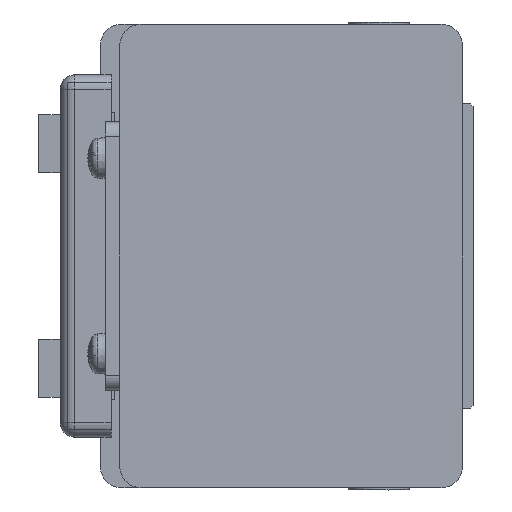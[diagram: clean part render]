
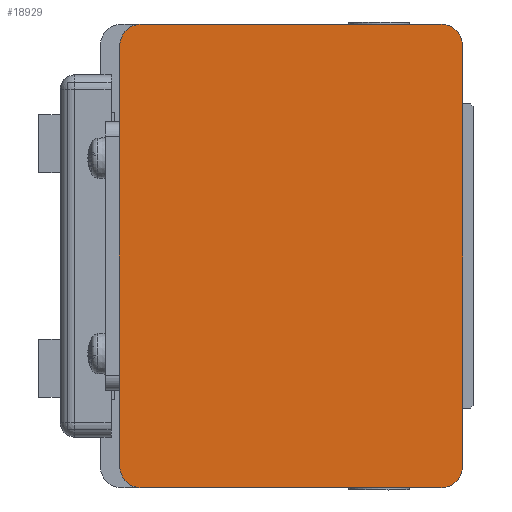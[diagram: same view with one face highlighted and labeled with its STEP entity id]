
A CAD part, left-side view. The second image highlights one B-rep face of the part: STEP entity #18929.
In plain terms, the highlighted planar face has unit normal (-1, 0, 0) as drawn and (0, 0, -1) by its records, which use the part's own axes.
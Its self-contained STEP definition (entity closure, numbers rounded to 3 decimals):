
#779=LINE('',#26723,#2431);
#794=LINE('',#26765,#2446);
#839=LINE('',#26874,#2491);
#861=LINE('',#26943,#2513);
#874=LINE('',#26978,#2526);
#875=LINE('',#26981,#2527);
#876=LINE('',#26982,#2528);
#877=LINE('',#26987,#2529);
#2431=VECTOR('',#21837,19.);
#2446=VECTOR('',#21870,41.3);
#2491=VECTOR('',#21959,41.3);
#2513=VECTOR('',#22019,19.);
#2526=VECTOR('',#22054,0.1);
#2527=VECTOR('',#22057,20.);
#2528=VECTOR('',#22058,0.1);
#2529=VECTOR('',#22063,58.);
#4234=PLANE('',#20159);
#5046=FACE_OUTER_BOUND('',#6156,.T.);
#6156=EDGE_LOOP('',(#12722,#12723,#12724,#12725,#12726,#12727,#12728,#12729,
#12730,#12731,#12732,#12733));
#7398=CIRCLE('',#20160,3.);
#7399=CIRCLE('',#20161,3.);
#7400=CIRCLE('',#20162,3.);
#7401=CIRCLE('',#20163,3.);
#7947=VERTEX_POINT('',#26720);
#7948=VERTEX_POINT('',#26722);
#7965=VERTEX_POINT('',#26762);
#7966=VERTEX_POINT('',#26764);
#8007=VERTEX_POINT('',#26871);
#8008=VERTEX_POINT('',#26873);
#8035=VERTEX_POINT('',#26940);
#8036=VERTEX_POINT('',#26942);
#8047=VERTEX_POINT('',#26976);
#8048=VERTEX_POINT('',#26980);
#8049=VERTEX_POINT('',#26984);
#8050=VERTEX_POINT('',#26986);
#9800=EDGE_CURVE('',#7948,#7947,#779,.T.);
#9821=EDGE_CURVE('',#7966,#7965,#794,.T.);
#9876=EDGE_CURVE('',#8008,#8007,#839,.T.);
#9910=EDGE_CURVE('',#8036,#8035,#861,.T.);
#9929=EDGE_CURVE('',#8047,#7947,#874,.T.);
#9930=EDGE_CURVE('',#8048,#8047,#875,.T.);
#9931=EDGE_CURVE('',#8036,#8048,#876,.T.);
#9932=EDGE_CURVE('',#8035,#8008,#7398,.T.);
#9933=EDGE_CURVE('',#8007,#8049,#7399,.T.);
#9934=EDGE_CURVE('',#8049,#8050,#877,.T.);
#9935=EDGE_CURVE('',#8050,#7966,#7400,.T.);
#9936=EDGE_CURVE('',#7965,#7948,#7401,.T.);
#12722=ORIENTED_EDGE('',*,*,#9800,.T.);
#12723=ORIENTED_EDGE('',*,*,#9929,.F.);
#12724=ORIENTED_EDGE('',*,*,#9930,.F.);
#12725=ORIENTED_EDGE('',*,*,#9931,.F.);
#12726=ORIENTED_EDGE('',*,*,#9910,.T.);
#12727=ORIENTED_EDGE('',*,*,#9932,.T.);
#12728=ORIENTED_EDGE('',*,*,#9876,.T.);
#12729=ORIENTED_EDGE('',*,*,#9933,.T.);
#12730=ORIENTED_EDGE('',*,*,#9934,.T.);
#12731=ORIENTED_EDGE('',*,*,#9935,.T.);
#12732=ORIENTED_EDGE('',*,*,#9821,.T.);
#12733=ORIENTED_EDGE('',*,*,#9936,.T.);
#18929=ADVANCED_FACE('',(#5046),#4234,.F.);
#20159=AXIS2_PLACEMENT_3D('',#26979,#22055,#22056);
#20160=AXIS2_PLACEMENT_3D('',#26983,#22059,#22060);
#20161=AXIS2_PLACEMENT_3D('',#26985,#22061,#22062);
#20162=AXIS2_PLACEMENT_3D('',#26988,#22064,#22065);
#20163=AXIS2_PLACEMENT_3D('',#26989,#22066,#22067);
#21837=DIRECTION('',(1.,0.,0.));
#21870=DIRECTION('',(0.,1.,0.));
#21959=DIRECTION('',(0.,-1.,0.));
#22019=DIRECTION('',(1.,0.,0.));
#22054=DIRECTION('',(0.,-1.,0.));
#22055=DIRECTION('center_axis',(0.,0.,1.));
#22056=DIRECTION('ref_axis',(1.,0.,0.));
#22057=DIRECTION('',(-1.,0.,0.));
#22058=DIRECTION('',(0.,1.,0.));
#22059=DIRECTION('center_axis',(0.,0.,-1.));
#22060=DIRECTION('ref_axis',(-1.,0.,0.));
#22061=DIRECTION('center_axis',(0.,0.,-1.));
#22062=DIRECTION('ref_axis',(0.,1.,0.));
#22063=DIRECTION('',(-1.,0.,0.));
#22064=DIRECTION('center_axis',(0.,0.,-1.));
#22065=DIRECTION('ref_axis',(1.,0.,0.));
#22066=DIRECTION('center_axis',(0.,0.,-1.));
#22067=DIRECTION('ref_axis',(0.,-1.,0.));
#26720=CARTESIAN_POINT('',(22.,48.8,-442.));
#26722=CARTESIAN_POINT('',(3.,48.8,-442.));
#26723=CARTESIAN_POINT('',(3.,48.8,-442.));
#26762=CARTESIAN_POINT('',(0.,45.8,-442.));
#26764=CARTESIAN_POINT('',(0.,4.5,-442.));
#26765=CARTESIAN_POINT('',(0.,4.5,-442.));
#26871=CARTESIAN_POINT('',(64.,4.5,-442.));
#26873=CARTESIAN_POINT('',(64.,45.8,-442.));
#26874=CARTESIAN_POINT('',(64.,45.8,-442.));
#26940=CARTESIAN_POINT('',(61.,48.8,-442.));
#26942=CARTESIAN_POINT('',(42.,48.8,-442.));
#26943=CARTESIAN_POINT('',(42.,48.8,-442.));
#26976=CARTESIAN_POINT('',(22.,48.9,-442.));
#26978=CARTESIAN_POINT('',(22.,48.9,-442.));
#26979=CARTESIAN_POINT('Origin',(32.,25.15,-442.));
#26980=CARTESIAN_POINT('',(42.,48.9,-442.));
#26981=CARTESIAN_POINT('',(42.,48.9,-442.));
#26982=CARTESIAN_POINT('',(42.,48.8,-442.));
#26983=CARTESIAN_POINT('Origin',(61.,45.8,-442.));
#26984=CARTESIAN_POINT('',(61.,1.5,-442.));
#26985=CARTESIAN_POINT('Origin',(61.,4.5,-442.));
#26986=CARTESIAN_POINT('',(3.,1.5,-442.));
#26987=CARTESIAN_POINT('',(61.,1.5,-442.));
#26988=CARTESIAN_POINT('Origin',(3.,4.5,-442.));
#26989=CARTESIAN_POINT('Origin',(3.,45.8,-442.));
